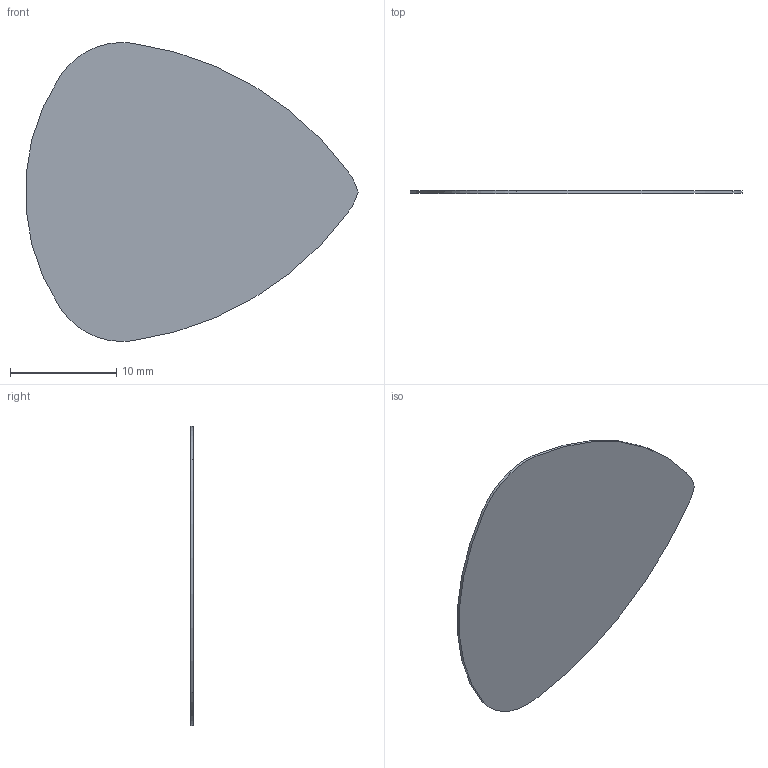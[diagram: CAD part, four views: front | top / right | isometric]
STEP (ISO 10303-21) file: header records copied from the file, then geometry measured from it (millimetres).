
FILE_DESCRIPTION(/* description */ (''),/* implementation_level */ '2;1');
FILE_NAME(/* name */ 'C:\Users\andre\Desktop\Item Writer\Draft 2\STEP Files\Plectrum\Plectrum.stp',/* time_stamp */ '2018-07-01T14:17:33+01:00',/* author */ ('Andrea Phee'),/* organization */ ('SQA'),/* preprocessor_version */ 'ST-DEVELOPER v16.13',/* originating_system */ 'Autodesk Inventor 2018',/* authorisation */ '');
FILE_SCHEMA (('AUTOMOTIVE_DESIGN { 1 0 10303 214 3 1 1 }'));
Length unit declared in the file: millimetre
Products named in the file (1): Plectrum
Bounding box: 31.26 x 0.25 x 28.16 mm (x, y, z)
Volume: 157.7 mm3; surface area: 1284.5 mm2
Topology: 1 solids, 1 shells, 9 faces, 21 edges, 14 vertices
Faces by surface type: cylinder 7, plane 2
Entity records: 308 total; most frequent: DIRECTION 55, CARTESIAN_POINT 45, ORIENTED_EDGE 42, AXIS2_PLACEMENT_3D 24, EDGE_CURVE 21, CIRCLE 14, VERTEX_POINT 14, FACE_OUTER_BOUND 9
